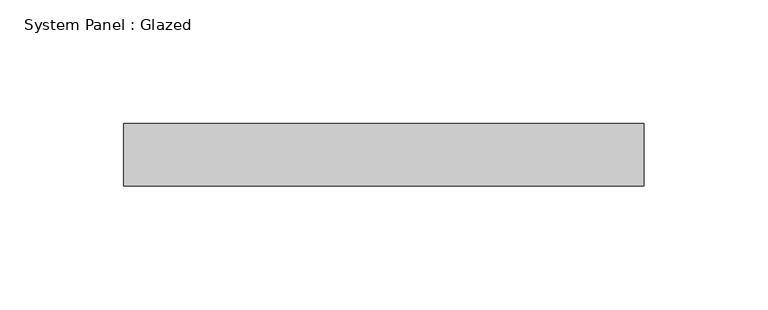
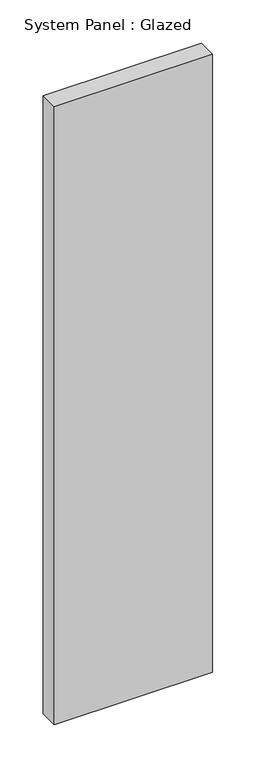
"""IFC4 building model written with IfcOpenShell, lengths in millimetres: plate geometry, System Panel : Glazed."""

from ifc_helpers import new_model, si_unit, origin, origin_with_axes, place, context, project, spatial, polyline, outline, extrude, source, transform, mapped, element, save


def system_panel_glazed_06645575(model_context):
    return source(origin(), model_context, "Body", "SweptSolid", [
        extrude(outline(polyline([(105.4575643, 19.05), (-105.4575643, 19.05), (-105.4575643, 44.45), (105.4575643, 44.45), (105.4575643, 19.05)])), origin_with_axes(), (0.0, 0.0, 1.0), 869.95),
    ])


if __name__ == "__main__":
    model = new_model("IFC4")
    model_context = context("Model", 3, world=origin())
    ifc_project = project(units=[si_unit("LENGTHUNIT", "METRE", prefix="MILLI")], contexts=[model_context])
    site = spatial("IfcSite", under=ifc_project)
    building = spatial("IfcBuilding", under=site)
    placement = place(None, origin())
    system_panel_glazed_shape = system_panel_glazed_06645575(model_context)
    element("IfcPlate", 1, ObjectType="System Panel : Glazed", at=placement, inside=building, context=model_context, shape_type="MappedRepresentation", body=[
        mapped(system_panel_glazed_shape, transform((0.0, 0.0, 0.0), x_axis=(1.0, 0.0, 0.0), y_axis=(0.0, 1.0, 0.0), z_axis=(0.0, 0.0, 1.0))),
    ])
    save(model, "model.ifc")
